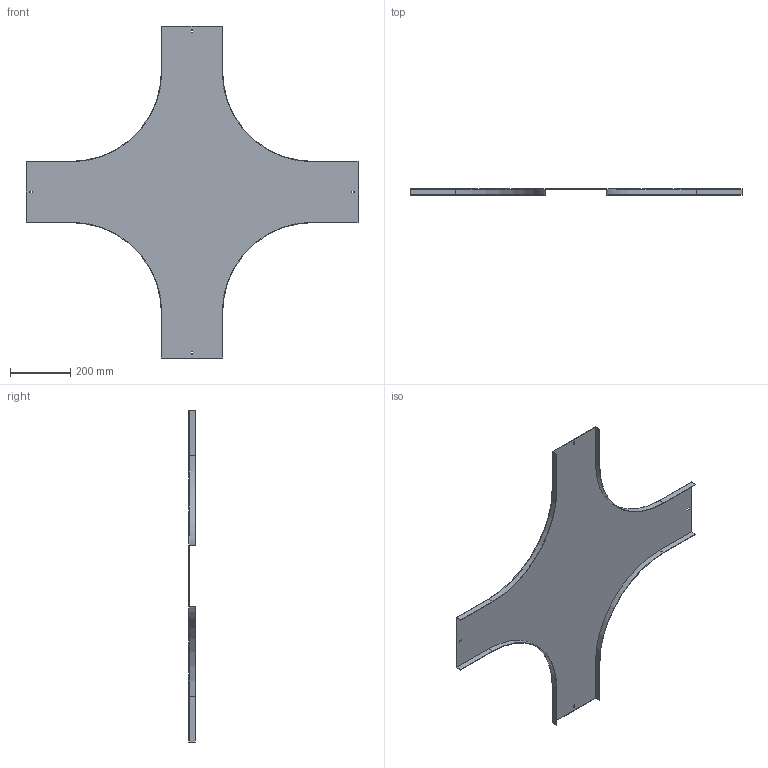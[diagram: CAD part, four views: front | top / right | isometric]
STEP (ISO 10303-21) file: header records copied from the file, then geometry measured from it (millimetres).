
FILE_DESCRIPTION (( 'STEP AP214' ), '1' );
FILE_NAME ('A2_17N3R200.step', '2025-02-21T12:08:06', ( '' ), ( '' ), 'SwSTEP 2.0', 'SolidWorks 2023', '' );
FILE_SCHEMA (( 'AUTOMOTIVE_DESIGN' ));
Length unit declared in the file: millimetre
Products named in the file (1): A2_17N3R200
Bounding box: 1100 x 20 x 1100 mm (x, y, z)
Volume: 807941.3 mm3; surface area: 1083494.3 mm2
Topology: 1 solids, 1 shells, 50 faces, 144 edges, 96 vertices
Faces by surface type: plane 42, cylinder 8
Entity records: 1663 total; most frequent: CARTESIAN_POINT 291, ORIENTED_EDGE 288, DIRECTION 262, EDGE_CURVE 144, VECTOR 128, LINE 128, VERTEX_POINT 96, AXIS2_PLACEMENT_3D 67
